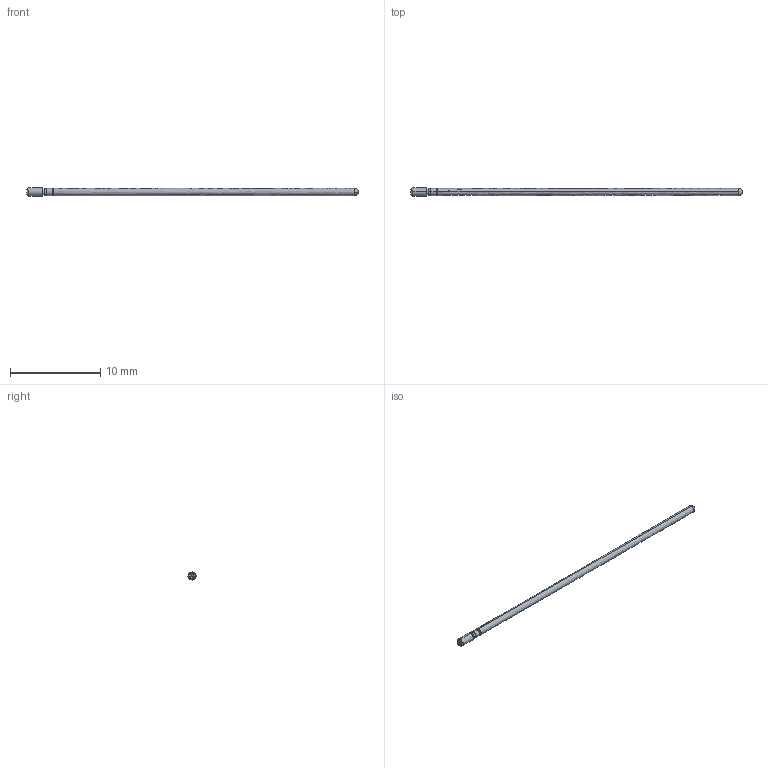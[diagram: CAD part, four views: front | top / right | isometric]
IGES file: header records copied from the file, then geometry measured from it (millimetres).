
Start section: SolidWorks IGES file using analytic representation for surfaces
Global section: file name: L:\probe solid model mockups\Solidworks models\POGO-72H Full.IGS; native system: SolidWorks 2006 by SolidWorks Corporation; preprocessor: SolidWorks 2006 by SolidWorks Corporation; author: Ksnyder; date: 071211.135646; units: inch
Bounding box: 36.83 x 0.89 x 0.89 mm (x, y, z)
Volume: 28.8 mm3; surface area: 175.4 mm2
Topology: 1 solids, 1 shells, 48 faces, 96 edges, 49 vertices
Faces by surface type: plane 30, revolution 18
